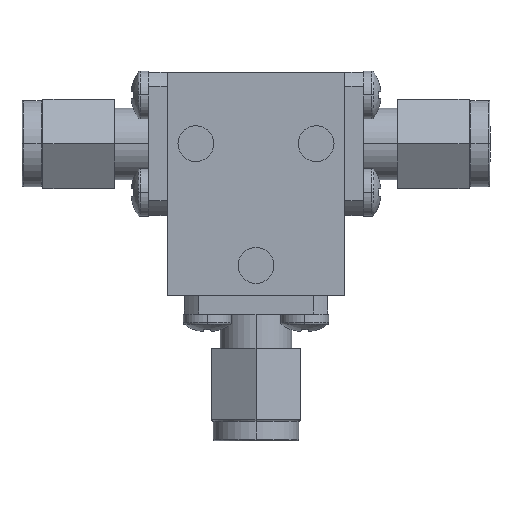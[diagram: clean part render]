
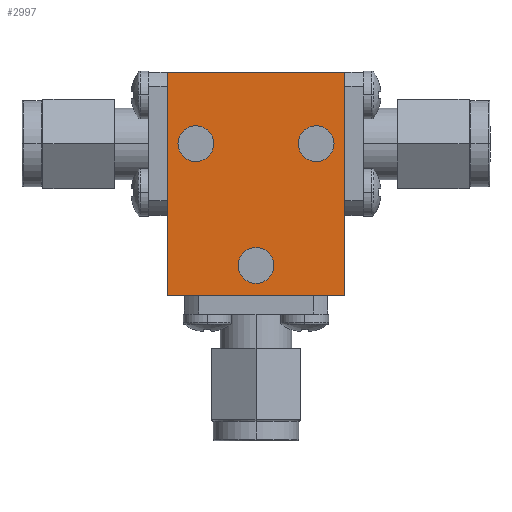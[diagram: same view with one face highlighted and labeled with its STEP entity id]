
A CAD part, top view. The second image highlights one B-rep face of the part: STEP entity #2997.
In plain terms, the highlighted planar face has unit normal (0, 0, 1) as drawn and (0, 0, -1) by its records, which use the part's own axes.
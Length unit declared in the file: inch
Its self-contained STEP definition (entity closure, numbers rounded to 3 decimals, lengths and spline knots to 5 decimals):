
#23 = EDGE_CURVE ( 'NONE', #2036, #2472, #418, .T. ) ;
#70 = ORIENTED_EDGE ( 'NONE', *, *, #220, .F. ) ;
#91 = VECTOR ( 'NONE', #3158, 39.37008 ) ;
#103 = EDGE_LOOP ( 'NONE', ( #334, #70, #2609, #3218 ) ) ;
#149 = VERTEX_POINT ( 'NONE', #2937 ) ;
#203 = DIRECTION ( 'NONE',  ( 0., 0., 1. ) ) ;
#220 = EDGE_CURVE ( 'NONE', #3256, #2543, #3312, .T. ) ;
#282 = DIRECTION ( 'NONE',  ( 0., 1., 0. ) ) ;
#306 = EDGE_CURVE ( 'NONE', #149, #521, #793, .T. ) ;
#327 = CARTESIAN_POINT ( 'NONE',  ( 0.1475, 0.14, -0.25 ) ) ;
#334 = ORIENTED_EDGE ( 'NONE', *, *, #3111, .F. ) ;
#408 = DIRECTION ( 'NONE',  ( 1., 0., 0. ) ) ;
#418 = LINE ( 'NONE', #579, #91 ) ;
#424 = EDGE_CURVE ( 'NONE', #521, #149, #2268, .T. ) ;
#428 = VERTEX_POINT ( 'NONE', #1999 ) ;
#465 = DIRECTION ( 'NONE',  ( 1., 0., 0. ) ) ;
#487 = PLANE ( 'NONE',  #3310 ) ;
#521 = VERTEX_POINT ( 'NONE', #327 ) ;
#540 = EDGE_CURVE ( 'NONE', #428, #3219, #1677, .T. ) ;
#545 = VECTOR ( 'NONE', #282, 39.37008 ) ;
#579 = CARTESIAN_POINT ( 'NONE',  ( -0.31, 0.39, -0.25 ) ) ;
#603 = ORIENTED_EDGE ( 'NONE', *, *, #540, .T. ) ;
#649 = CARTESIAN_POINT ( 'NONE',  ( 0.31, 0.39, -0.25 ) ) ;
#732 = CARTESIAN_POINT ( 'NONE',  ( -0.31, -0.39, -0.25 ) ) ;
#747 = ORIENTED_EDGE ( 'NONE', *, *, #2731, .T. ) ;
#793 = CIRCLE ( 'NONE', #3263, 0.0625 ) ;
#834 = FACE_OUTER_BOUND ( 'NONE', #103, .T. ) ;
#869 = DIRECTION ( 'NONE',  ( 0., 0., 1. ) ) ;
#981 = DIRECTION ( 'NONE',  ( 0., -1., 0. ) ) ;
#994 = CARTESIAN_POINT ( 'NONE',  ( -0.1475, 0.14, -0.25 ) ) ;
#1020 = DIRECTION ( 'NONE',  ( 0., 0., 1. ) ) ;
#1030 = FACE_BOUND ( 'NONE', #2945, .T. ) ;
#1091 = CARTESIAN_POINT ( 'NONE',  ( -0.21, 0.14, -0.25 ) ) ;
#1131 = CARTESIAN_POINT ( 'NONE',  ( -0.31, 0.39, -0.25 ) ) ;
#1195 = DIRECTION ( 'NONE',  ( 1., 0., 0. ) ) ;
#1212 = CIRCLE ( 'NONE', #2567, 0.0625 ) ;
#1322 = CARTESIAN_POINT ( 'NONE',  ( -0.21, 0.14, -0.25 ) ) ;
#1441 = DIRECTION ( 'NONE',  ( 1., 0., 0. ) ) ;
#1518 = CARTESIAN_POINT ( 'NONE',  ( -0.31, 0.39, -0.25 ) ) ;
#1536 = CARTESIAN_POINT ( 'NONE',  ( 0., 0., -0.25 ) ) ;
#1578 = DIRECTION ( 'NONE',  ( 1., 0., 0. ) ) ;
#1621 = DIRECTION ( 'NONE',  ( 1., 0., 0. ) ) ;
#1636 = AXIS2_PLACEMENT_3D ( 'NONE', #2117, #3191, #2375 ) ;
#1653 = EDGE_LOOP ( 'NONE', ( #1676, #747 ) ) ;
#1676 = ORIENTED_EDGE ( 'NONE', *, *, #2884, .T. ) ;
#1677 = CIRCLE ( 'NONE', #2045, 0.0625 ) ;
#1683 = EDGE_LOOP ( 'NONE', ( #2221, #603 ) ) ;
#1759 = DIRECTION ( 'NONE',  ( 1., 0., 0. ) ) ;
#1804 = CARTESIAN_POINT ( 'NONE',  ( 0.0625, -0.285, -0.25 ) ) ;
#1826 = FACE_BOUND ( 'NONE', #1683, .T. ) ;
#1934 = AXIS2_PLACEMENT_3D ( 'NONE', #1091, #869, #1621 ) ;
#1999 = CARTESIAN_POINT ( 'NONE',  ( -0.2725, 0.14, -0.25 ) ) ;
#2025 = LINE ( 'NONE', #2865, #545 ) ;
#2036 = VERTEX_POINT ( 'NONE', #649 ) ;
#2038 = ORIENTED_EDGE ( 'NONE', *, *, #424, .T. ) ;
#2045 = AXIS2_PLACEMENT_3D ( 'NONE', #1322, #2873, #1578 ) ;
#2117 = CARTESIAN_POINT ( 'NONE',  ( 0., -0.285, -0.25 ) ) ;
#2174 = CIRCLE ( 'NONE', #1636, 0.0625 ) ;
#2215 = CARTESIAN_POINT ( 'NONE',  ( 0.21, 0.14, -0.25 ) ) ;
#2218 = CIRCLE ( 'NONE', #1934, 0.0625 ) ;
#2221 = ORIENTED_EDGE ( 'NONE', *, *, #2789, .T. ) ;
#2268 = CIRCLE ( 'NONE', #2626, 0.0625 ) ;
#2271 = VERTEX_POINT ( 'NONE', #1804 ) ;
#2362 = VERTEX_POINT ( 'NONE', #2624 ) ;
#2375 = DIRECTION ( 'NONE',  ( 1., 0., 0. ) ) ;
#2472 = VERTEX_POINT ( 'NONE', #1131 ) ;
#2543 = VERTEX_POINT ( 'NONE', #3185 ) ;
#2567 = AXIS2_PLACEMENT_3D ( 'NONE', #2993, #2973, #1441 ) ;
#2609 = ORIENTED_EDGE ( 'NONE', *, *, #3221, .F. ) ;
#2624 = CARTESIAN_POINT ( 'NONE',  ( -0.0625, -0.285, -0.25 ) ) ;
#2626 = AXIS2_PLACEMENT_3D ( 'NONE', #3055, #203, #465 ) ;
#2676 = CARTESIAN_POINT ( 'NONE',  ( -0.31, -0.39, -0.25 ) ) ;
#2731 = EDGE_CURVE ( 'NONE', #2362, #2271, #2174, .T. ) ;
#2789 = EDGE_CURVE ( 'NONE', #3219, #428, #2218, .T. ) ;
#2840 = VECTOR ( 'NONE', #1195, 39.37008 ) ;
#2865 = CARTESIAN_POINT ( 'NONE',  ( 0.31, 0.39, -0.25 ) ) ;
#2873 = DIRECTION ( 'NONE',  ( 0., 0., 1. ) ) ;
#2884 = EDGE_CURVE ( 'NONE', #2271, #2362, #1212, .T. ) ;
#2893 = FACE_BOUND ( 'NONE', #1653, .T. ) ;
#2937 = CARTESIAN_POINT ( 'NONE',  ( 0.2725, 0.14, -0.25 ) ) ;
#2945 = EDGE_LOOP ( 'NONE', ( #2981, #2038 ) ) ;
#2971 = LINE ( 'NONE', #1518, #3127 ) ;
#2973 = DIRECTION ( 'NONE',  ( 0., 0., 1. ) ) ;
#2981 = ORIENTED_EDGE ( 'NONE', *, *, #306, .T. ) ;
#2992 = DIRECTION ( 'NONE',  ( 0., 0., 1. ) ) ;
#2993 = CARTESIAN_POINT ( 'NONE',  ( 0., -0.285, -0.25 ) ) ;
#2997 = ADVANCED_FACE ( 'NONE', ( #1030, #2893, #1826, #834 ), #487, .F. ) ;
#3055 = CARTESIAN_POINT ( 'NONE',  ( 0.21, 0.14, -0.25 ) ) ;
#3111 = EDGE_CURVE ( 'NONE', #2543, #2036, #2025, .T. ) ;
#3127 = VECTOR ( 'NONE', #981, 39.37008 ) ;
#3158 = DIRECTION ( 'NONE',  ( -1., 0., 0. ) ) ;
#3185 = CARTESIAN_POINT ( 'NONE',  ( 0.31, -0.39, -0.25 ) ) ;
#3191 = DIRECTION ( 'NONE',  ( 0., 0., 1. ) ) ;
#3218 = ORIENTED_EDGE ( 'NONE', *, *, #23, .F. ) ;
#3219 = VERTEX_POINT ( 'NONE', #994 ) ;
#3221 = EDGE_CURVE ( 'NONE', #2472, #3256, #2971, .T. ) ;
#3256 = VERTEX_POINT ( 'NONE', #732 ) ;
#3263 = AXIS2_PLACEMENT_3D ( 'NONE', #2215, #2992, #408 ) ;
#3310 = AXIS2_PLACEMENT_3D ( 'NONE', #1536, #1020, #1759 ) ;
#3312 = LINE ( 'NONE', #2676, #2840 ) ;
